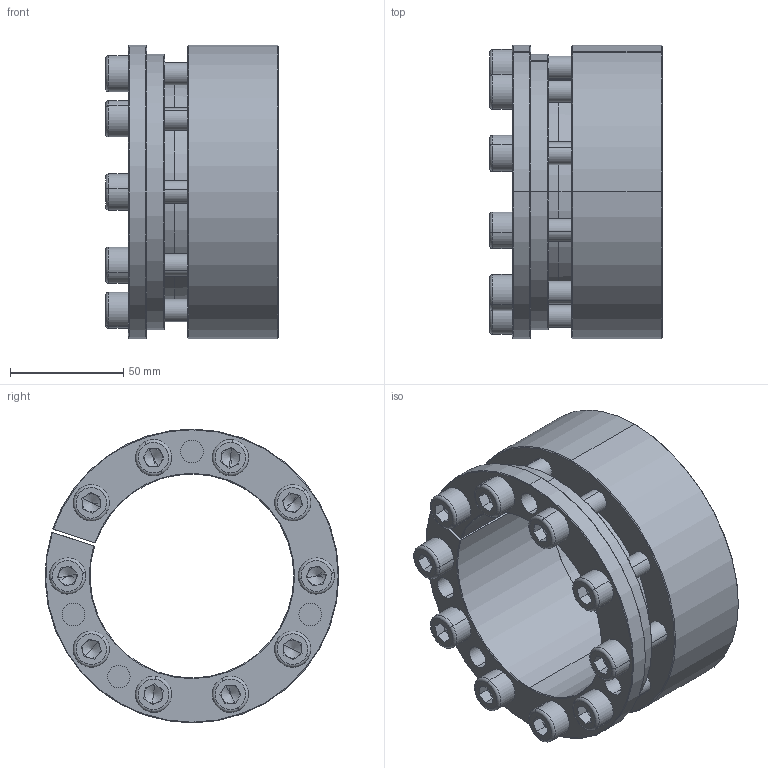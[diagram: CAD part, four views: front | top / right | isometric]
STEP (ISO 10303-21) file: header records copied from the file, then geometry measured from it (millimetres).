
FILE_DESCRIPTION (( 'STEP AP214' ), '1' );
FILE_NAME ('PL-H2 90-130.STEP', '2022-07-25T02:25:03', ( '' ), ( '' ), 'SwSTEP 2.0', 'SolidWorks 2022', '' );
FILE_SCHEMA (( 'AUTOMOTIVE_DESIGN' ));
Length unit declared in the file: millimetre
Products named in the file (1): PL-H2 90-130
Bounding box: 76.19 x 129.83 x 129.88 mm (x, y, z)
Volume: 377506.6 mm3; surface area: 99618.8 mm2
Topology: 1 solids, 1 shells, 357 faces, 873 edges, 538 vertices
Faces by surface type: plane 158, cylinder 103, cone 76, torus 20
Entity records: 10510 total; most frequent: DIRECTION 1950, CARTESIAN_POINT 1821, ORIENTED_EDGE 1706, EDGE_CURVE 853, AXIS2_PLACEMENT_3D 763, VERTEX_POINT 538, EDGE_LOOP 425, LINE 424
